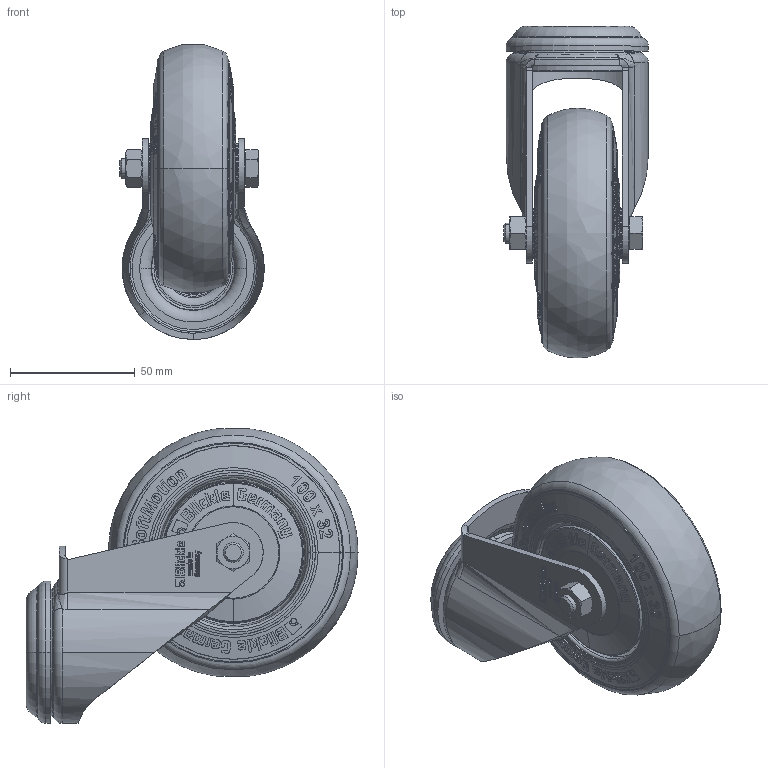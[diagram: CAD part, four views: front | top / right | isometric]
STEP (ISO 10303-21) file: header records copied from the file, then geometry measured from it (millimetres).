
FILE_DESCRIPTION (( 'STEP AP214' ), '1' );
FILE_NAME ('LKRA-POES_102K-SG-FK_921801-214.step', '2022-01-05T14:06:59', ( '' ), ( '' ), 'SwSTEP 2.0', 'SolidWorks 2018', '' );
FILE_SCHEMA (( 'AUTOMOTIVE_DESIGN' ));
Length unit declared in the file: millimetre
Products named in the file (5): POES_102_8K-SG-FK_G16_3D; LKRA-POES_102K-SG-FK_921801-214; POES_3D_G16_POES_102_8K-SG-FK_921612; GH-LKRA-100x35-057-13_8x36_G16_3D; GH-LKRA_050-125_GH-LKRA-100x35-057-13_8x36
Assembly tree (4 placements, depth 3):
  LKRA-POES_102K-SG-FK_921801-214
    GH-LKRA_050-125_GH-LKRA-100x35-057-13_8x36
      GH-LKRA-100x35-057-13_8x36_G16_3D
    POES_3D_G16_POES_102_8K-SG-FK_921612
      POES_102_8K-SG-FK_G16_3D
Bounding box: 58 x 133 x 118.15 mm (x, y, z)
Volume: 228598 mm3; surface area: 80261 mm2
Topology: 2 solids, 6 shells, 2963 faces, 7933 edges, 5189 vertices
Faces by surface type: plane 1283, bspline 1191, cone 303, torus 103, cylinder 83
Entity records: 123962 total; most frequent: CARTESIAN_POINT 52101, ORIENTED_EDGE 15866, DIRECTION 8107, EDGE_CURVE 7933, VERTEX_POINT 5189, B_SPLINE_CURVE_WITH_KNOTS 4035, LINE 3227, VECTOR 3227
